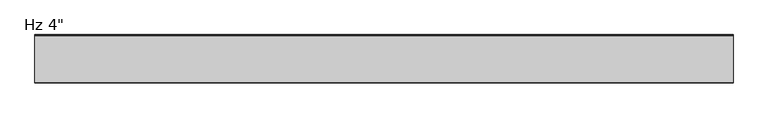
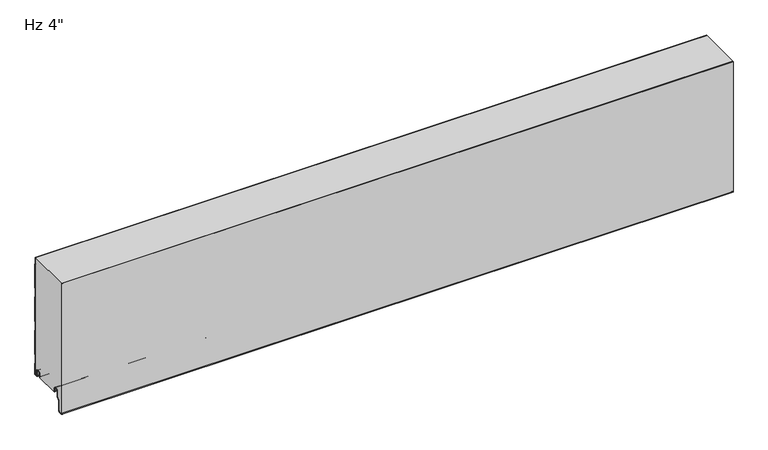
"""IFC4 building model written with IfcOpenShell, lengths in millimetres: plate geometry."""

from ifc_helpers import new_model, si_unit, point, frame, frame_2d, origin, place, context, project, spatial, polyline, circle_curve, trimmed, segment, composite_curve, outline, extrude, source, transform, mapped, element, save
from ifc_brep_helpers import plane_surface, cylinder_surface, revolved_surface, advanced_brep


def plate_7d6053d8(model_context):
    return source(origin(), model_context, "Body", "SolidModel", [
        advanced_brep(
        [(-730.0, -17.0015159, 2.0313088), (-730.0, -18.0015191, 1.0313116), (-730.0, -19.0015105, 2.0313088), (-730.0, -19.0015105, 6.0315125), (-730.0, -18.0015159, 6.0315125), (-730.0, -18.0015159, 8.7237223), (-730.0, -14.7015202, 12.023718), (-730.0, -10.301529, 12.023718), (-730.0, -7.0015335, 8.7237225), (-730.0, -7.0015335, -1.6962564), (-730.0, -5.2315393, -3.4662506), (-730.0, -0.9999916, -3.4662506), (-730.0, -0.9999916, 21.034026), (-730.0, -2.2002307, 22.4196686), (-730.0, -2.2002307, 41.7948349), (-730.0, -1.0, 43.1804679), (-730.0, -1.0, 97.2338833), (-730.0, -2.2002307, 98.6195162), (-730.0, -2.2002307, 117.9946825), (-730.0, -1.0, 119.3803155), (-730.0, -1.0, 173.4337309), (-730.0, -2.2002307, 174.8193638), (-730.0, -2.2002307, 194.1945301), (-730.0, -1.0, 195.5801631), (-730.0, -1.0, 249.6335785), (-730.0, -2.2002307, 251.0192114), (-730.0, -2.2002307, 266.4), (-730.0, -1.2002307, 266.4), (-730.0, -1.2002307, 251.3920919), (-730.0, -0.3417885, 250.4010442), (-730.0, 0.0, 249.4844273), (-730.0, 0.0, 195.7293142), (-730.0, -0.3417885, 194.8126973), (-730.0, -1.2002307, 193.8216497), (-730.0, -1.2002307, 175.1922443), (-730.0, -0.3417885, 174.2011966), (-730.0, 0.0, 173.2845797), (-730.0, 0.0, 119.5294666), (-730.0, -0.3417885, 118.6128497), (-730.0, -1.2002307, 117.6218021), (-730.0, -1.2002307, 98.9923967), (-730.0, -0.3417885, 98.001349), (-730.0, 0.0, 97.0847321), (-730.0, 0.0, 43.329619), (-730.0, -0.3417885, 42.4130021), (-730.0, -1.2002307, 41.4219545), (-730.0, -1.2002307, 22.7925491), (-730.0, -0.3417885, 21.8015014), (-730.0, 0.0, 20.8847931), (-730.0, 8.4e-06, -3.0662545), (-730.0, -1.3999878, -4.4662506), (-730.0, -5.2315393, -4.4662506), (-730.0, -8.0015335, -1.6962564), (-730.0, -8.0015335, 8.7237225), (-730.0, -10.301529, 11.023718), (-730.0, -14.7015202, 11.023718), (-730.0, -17.0015159, 8.7237223), (730.0, -17.0015159, 2.0313088), (730.0, -17.0015159, 8.7237223), (730.0, -14.7015202, 11.023718), (730.0, -10.301529, 11.023718), (730.0, -8.0015335, 8.7237225), (730.0, -8.0015335, -1.6962564), (730.0, -5.2315393, -4.4662506), (730.0, -1.3999878, -4.4662506), (730.0, 8.4e-06, -3.0662545), (730.0, 8.4e-06, 20.8848845), (730.0, -0.3417885, 21.8015014), (730.0, -1.2002307, 22.7925491), (730.0, -1.2002307, 41.4219545), (730.0, -0.3417885, 42.4130021), (730.0, 0.0, 43.329619), (730.0, 0.0, 97.0847321), (730.0, -0.3417885, 98.001349), (730.0, -1.2002307, 98.9923967), (730.0, -1.2002307, 117.6218021), (730.0, -0.3417885, 118.6128497), (730.0, 0.0, 119.5294666), (730.0, 0.0, 173.2845797), (730.0, -0.3417885, 174.2011966), (730.0, -1.2002307, 175.1922443), (730.0, -1.2002307, 193.8216497), (730.0, -0.3417885, 194.8126973), (730.0, 0.0, 195.7293142), (730.0, 0.0, 249.4844273), (730.0, -0.3417885, 250.4010442), (730.0, -1.2002307, 251.3920919), (730.0, -1.2002307, 266.4), (730.0, -2.2002307, 266.4), (730.0, -2.2002307, 251.0192114), (730.0, -1.0, 249.6335785), (730.0, -1.0, 195.5801631), (730.0, -2.2002307, 194.1945301), (730.0, -2.2002307, 174.8193638), (730.0, -1.0, 173.4337309), (730.0, -1.0, 119.3803155), (730.0, -2.2002307, 117.9946825), (730.0, -2.2002307, 98.6195162), (730.0, -1.0, 97.2338833), (730.0, -1.0, 43.1804679), (730.0, -2.2002307, 41.7948349), (730.0, -2.2002307, 22.4196686), (730.0, -0.9999916, 21.034026), (730.0, -0.9999916, -3.4662506), (730.0, -5.2315393, -3.4662506), (730.0, -7.0015335, -1.6962564), (730.0, -7.0015335, 8.7237225), (730.0, -10.301529, 12.023718), (730.0, -14.7015202, 12.023718), (730.0, -18.0015159, 8.7237223), (730.0, -18.0015159, 6.0315125), (730.0, -19.0015105, 6.0315125), (730.0, -19.0015105, 2.0313088), (730.0, -18.0015192, 1.0313116)],
        [
            (0, 1, circle_curve(frame((-730.0, -18.0015132, 2.0313088), z_axis=(-1.0, 0.0, 0.0), x_axis=(0.0, 0.0, 1.0)), 0.9999973)),
            (1, 2, circle_curve(frame((-730.0, -18.0015133, 2.0313088), z_axis=(-1.0, 0.0, 0.0), x_axis=(0.0, 0.0, 1.0)), 0.9999972)),
            (2, 3),
            (3, 4),
            (4, 5),
            (5, 6, circle_curve(frame((-730.0, -14.7015202, 8.7237223), z_axis=(-1.0, 0.0, 0.0), x_axis=(0.0, 0.0, 1.0)), 3.2999957)),
            (6, 7),
            (7, 8, circle_curve(frame((-730.0, -10.301529, 8.7237225), z_axis=(-1.0, 0.0, 0.0), x_axis=(0.0, 0.0, 1.0)), 3.2999955)),
            (8, 9),
            (9, 10, circle_curve(frame((-730.0, -5.2315393, -1.6962564), z_axis=(1.0, 0.0, 0.0), x_axis=(0.0, 0.0, 1.0)), 1.7699942)),
            (10, 11),
            (11, 12),
            (12, 13),
            (13, 14),
            (14, 15),
            (15, 16),
            (16, 17),
            (17, 18),
            (18, 19),
            (19, 20),
            (20, 21),
            (21, 22),
            (22, 23),
            (23, 24),
            (24, 25),
            (25, 26),
            (26, 27),
            (27, 28),
            (28, 29),
            (29, 30, circle_curve(frame((-730.0, -1.3999972, 249.4844273), z_axis=(-1.0, 0.0, 0.0), x_axis=(0.0, 0.0, 1.0)), 1.3999972)),
            (30, 31),
            (31, 32, circle_curve(frame((-730.0, -1.3999972, 195.7293142), z_axis=(-1.0, 0.0, 0.0), x_axis=(0.0, 0.0, 1.0)), 1.3999972)),
            (32, 33),
            (33, 34),
            (34, 35),
            (35, 36, circle_curve(frame((-730.0, -1.3999972, 173.2845797), z_axis=(-1.0, 0.0, 0.0), x_axis=(0.0, 0.0, 1.0)), 1.3999972)),
            (36, 37),
            (37, 38, circle_curve(frame((-730.0, -1.3999972, 119.5294666), z_axis=(-1.0, 0.0, 0.0), x_axis=(0.0, 0.0, 1.0)), 1.3999972)),
            (38, 39),
            (39, 40),
            (40, 41),
            (41, 42, circle_curve(frame((-730.0, -1.3999972, 97.0847321), z_axis=(-1.0, 0.0, 0.0), x_axis=(0.0, 0.0, 1.0)), 1.3999972)),
            (42, 43),
            (43, 44, circle_curve(frame((-730.0, -1.3999972, 43.329619), z_axis=(-1.0, 0.0, 0.0), x_axis=(0.0, 0.0, 1.0)), 1.3999972)),
            (44, 45),
            (45, 46),
            (46, 47),
            (47, 48, circle_curve(frame((-730.0, -1.3999972, 20.8848845), z_axis=(-1.0, 0.0, 0.0), x_axis=(0.0, 0.0, 1.0)), 1.3999972)),
            (48, 49),
            (49, 50, circle_curve(frame((-730.0, -1.3999878, -3.0662545), z_axis=(-1.0, 0.0, 0.0), x_axis=(0.0, 0.0, 1.0)), 1.3999962)),
            (50, 51),
            (51, 52, circle_curve(frame((-730.0, -5.2315393, -1.6962564), z_axis=(-1.0, 0.0, 0.0), x_axis=(0.0, 0.0, 1.0)), 2.7699942)),
            (52, 53),
            (53, 54, circle_curve(frame((-730.0, -10.301529, 8.7237225), z_axis=(1.0, 0.0, 0.0), x_axis=(0.0, 0.0, 1.0)), 2.2999955)),
            (54, 55),
            (55, 56, circle_curve(frame((-730.0, -14.7015202, 8.7237223), z_axis=(1.0, 0.0, 0.0), x_axis=(0.0, 0.0, 1.0)), 2.2999957)),
            (56, 0),
            (57, 58),
            (58, 59, circle_curve(frame((730.0, -14.7015202, 8.7237223), z_axis=(-1.0, 0.0, 0.0), x_axis=(0.0, 0.0, 1.0)), 2.2999957)),
            (59, 60),
            (60, 61, circle_curve(frame((730.0, -10.301529, 8.7237225), z_axis=(-1.0, 0.0, 0.0), x_axis=(0.0, 0.0, 1.0)), 2.2999955)),
            (61, 62),
            (62, 63, circle_curve(frame((730.0, -5.2315393, -1.6962564), z_axis=(1.0, 0.0, 0.0), x_axis=(0.0, 0.0, 1.0)), 2.7699942)),
            (63, 64),
            (64, 65, circle_curve(frame((730.0, -1.3999878, -3.0662545), z_axis=(1.0, 0.0, 0.0), x_axis=(0.0, 0.0, 1.0)), 1.3999962)),
            (65, 66),
            (66, 67, circle_curve(frame((730.0, -1.3999972, 20.8848845), z_axis=(1.0, 0.0, 0.0), x_axis=(0.0, 0.0, 1.0)), 1.3999972)),
            (67, 68),
            (68, 69),
            (69, 70),
            (70, 71, circle_curve(frame((730.0, -1.3999972, 43.329619), z_axis=(1.0, 0.0, 0.0), x_axis=(0.0, 0.0, 1.0)), 1.3999972)),
            (71, 72),
            (72, 73, circle_curve(frame((730.0, -1.3999972, 97.0847321), z_axis=(1.0, 0.0, 0.0), x_axis=(0.0, 0.0, 1.0)), 1.3999972)),
            (73, 74),
            (74, 75),
            (75, 76),
            (76, 77, circle_curve(frame((730.0, -1.3999972, 119.5294666), z_axis=(1.0, 0.0, 0.0), x_axis=(0.0, 0.0, 1.0)), 1.3999972)),
            (77, 78),
            (78, 79, circle_curve(frame((730.0, -1.3999972, 173.2845797), z_axis=(1.0, 0.0, 0.0), x_axis=(0.0, 0.0, 1.0)), 1.3999972)),
            (79, 80),
            (80, 81),
            (81, 82),
            (82, 83, circle_curve(frame((730.0, -1.3999972, 195.7293142), z_axis=(1.0, 0.0, 0.0), x_axis=(0.0, 0.0, 1.0)), 1.3999972)),
            (83, 84),
            (84, 85, circle_curve(frame((730.0, -1.3999972, 249.4844273), z_axis=(1.0, 0.0, 0.0), x_axis=(0.0, 0.0, 1.0)), 1.3999972)),
            (85, 86),
            (86, 87),
            (87, 88),
            (88, 89),
            (89, 90),
            (90, 91),
            (91, 92),
            (92, 93),
            (93, 94),
            (94, 95),
            (95, 96),
            (96, 97),
            (97, 98),
            (98, 99),
            (99, 100),
            (100, 101),
            (101, 102),
            (102, 103),
            (103, 104),
            (104, 105, circle_curve(frame((730.0, -5.2315393, -1.6962564), z_axis=(-1.0, 0.0, 0.0), x_axis=(0.0, 0.0, 1.0)), 1.7699942)),
            (105, 106),
            (106, 107, circle_curve(frame((730.0, -10.301529, 8.7237225), z_axis=(1.0, 0.0, 0.0), x_axis=(0.0, 0.0, 1.0)), 3.2999955)),
            (107, 108),
            (108, 109, circle_curve(frame((730.0, -14.7015202, 8.7237223), z_axis=(1.0, 0.0, 0.0), x_axis=(0.0, 0.0, 1.0)), 3.2999957)),
            (109, 110),
            (110, 111),
            (111, 112),
            (112, 113, circle_curve(frame((730.0, -18.0015133, 2.0313088), z_axis=(1.0, 0.0, 0.0), x_axis=(0.0, 0.0, 1.0)), 0.9999972)),
            (113, 57, circle_curve(frame((730.0, -18.0015132, 2.0313088), z_axis=(1.0, 0.0, 0.0), x_axis=(0.0, 0.0, 1.0)), 0.9999973)),
            (26, 88),
            (87, 27),
            (56, 58),
            (57, 0),
            (55, 59),
            (54, 60),
            (53, 61),
            (52, 62),
            (51, 63),
            (50, 64),
            (49, 65),
            (48, 66),
            (47, 67),
            (46, 68),
            (45, 69),
            (44, 70),
            (43, 71),
            (42, 72),
            (41, 73),
            (40, 74),
            (39, 75),
            (38, 76),
            (37, 77),
            (36, 78),
            (19, 95),
            (94, 20),
            (18, 96),
            (17, 97),
            (16, 98),
            (15, 99),
            (14, 100),
            (13, 101),
            (12, 102),
            (11, 103),
            (10, 104),
            (9, 105),
            (8, 106),
            (7, 107),
            (6, 108),
            (5, 109),
            (4, 110),
            (3, 111),
            (2, 112),
            (1, 113),
            (35, 79),
            (34, 80),
            (33, 81),
            (32, 82),
            (31, 83),
            (30, 84),
            (29, 85),
            (28, 86),
            (25, 89),
            (24, 90),
            (23, 91),
            (22, 92),
            (21, 93),
        ],
        [
            plane_surface(frame((-730.0, 0.0, 533.4), z_axis=(-1.0, 0.0, 0.0), x_axis=(0.0, 1.0, 0.0))),
            plane_surface(frame((730.0, 0.0, 533.4), z_axis=(1.0, 0.0, 0.0), x_axis=(0.0, 1.0, 0.0))),
            plane_surface(frame((730.0, 10.0, 266.4), z_axis=(0.0, 0.0, 1.0), x_axis=(-1.0, 0.0, 0.0))),
            plane_surface(frame((-730.0, -17.0015159, 2.0313088), z_axis=(0.0, 1.0, 0.0), x_axis=(1.0, 0.0, 0.0))),
            revolved_surface(polyline([(730.0, -14.7015202, 11.023718), (-730.0, -14.7015202, 11.023718)]), (-730.0, -14.7015202, 8.7237223), (1.0, 0.0, 0.0)),
            plane_surface(frame((-730.0, -14.7015202, 11.023718), z_axis=(0.0, 0.0, -1.0), x_axis=(1.0, 0.0, 0.0))),
            revolved_surface(polyline([(730.0, -10.301529, 11.023717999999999), (-730.0, -10.301529, 11.023717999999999)]), (-730.0, -10.301529, 8.7237225), (1.0, 0.0, 0.0)),
            plane_surface(frame((-730.0, -8.0015335, 8.7237225), z_axis=(0.0, -1.0, 0.0), x_axis=(1.0, 0.0, 0.0))),
            cylinder_surface(frame((-730.0, -5.2315393, -1.6962564), z_axis=(-1.0, 0.0, 0.0), x_axis=(0.0, 0.0, 1.0)), 2.7699942),
            plane_surface(frame((-730.0, -5.2315393, -4.4662506), z_axis=(0.0, 0.0, -1.0), x_axis=(1.0, 0.0, 0.0))),
            cylinder_surface(frame((-730.0, -1.3999878, -3.0662545), z_axis=(-1.0, 0.0, 0.0), x_axis=(0.0, 0.0, 1.0)), 1.3999962),
            plane_surface(frame((-730.0, 8.4e-06, -3.0662545), z_axis=(0.0, 1.0, 0.0), x_axis=(1.0, 0.0, 0.0))),
            cylinder_surface(frame((-730.0, -1.3999972, 20.8848845), z_axis=(-1.0, 0.0, 0.0), x_axis=(0.0, 0.0, 1.0)), 1.3999972),
            plane_surface(frame((-730.0, -0.3417885, 21.8015014), z_axis=(0.0, 0.755864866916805, 0.6547276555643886), x_axis=(1.0, 0.0, 0.0))),
            plane_surface(frame((-730.0, -1.2002307, 32.1072518), z_axis=(0.0, 1.0, 0.0), x_axis=(1.0, 0.0, 0.0))),
            plane_surface(frame((-730.0, -1.2002307, 41.4219545), z_axis=(0.0, 0.755864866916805, -0.6547276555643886), x_axis=(1.0, 0.0, 0.0))),
            cylinder_surface(frame((-730.0, -1.3999972, 43.329619), z_axis=(-1.0, 0.0, 0.0), x_axis=(0.0, 0.0, 1.0)), 1.3999972),
            plane_surface(frame((-730.0, 0.0, 43.329619), z_axis=(0.0, 1.0, 0.0), x_axis=(1.0, 0.0, 0.0))),
            cylinder_surface(frame((-730.0, -1.3999972, 97.0847321), z_axis=(-1.0, 0.0, 0.0), x_axis=(0.0, 0.0, 1.0)), 1.3999972),
            plane_surface(frame((-730.0, -0.3417885, 98.001349), z_axis=(0.0, 0.755864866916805, 0.6547276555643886), x_axis=(1.0, 0.0, 0.0))),
            plane_surface(frame((-730.0, -1.2002307, 108.3070994), z_axis=(0.0, 1.0, 0.0), x_axis=(1.0, 0.0, 0.0))),
            plane_surface(frame((-730.0, -1.2002307, 117.6218021), z_axis=(0.0, 0.755864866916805, -0.6547276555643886), x_axis=(1.0, 0.0, 0.0))),
            cylinder_surface(frame((-730.0, -1.3999972, 119.5294666), z_axis=(-1.0, 0.0, 0.0), x_axis=(0.0, 0.0, 1.0)), 1.3999972),
            plane_surface(frame((-730.0, 0.0, 119.5294666), z_axis=(0.0, 1.0, 0.0), x_axis=(1.0, 0.0, 0.0))),
            plane_surface(frame((-730.0, -1.0, 173.4337309), z_axis=(0.0, -1.0, 0.0), x_axis=(1.0, 0.0, 0.0))),
            plane_surface(frame((-730.0, -1.0, 119.3803155), z_axis=(0.0, -0.755864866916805, 0.6547276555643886), x_axis=(1.0, 0.0, 0.0))),
            plane_surface(frame((-730.0, -2.2002307, 117.9946825), z_axis=(0.0, -1.0, 0.0), x_axis=(1.0, 0.0, 0.0))),
            plane_surface(frame((-730.0, -2.2002307, 98.6195162), z_axis=(0.0, -0.755864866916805, -0.6547276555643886), x_axis=(1.0, 0.0, 0.0))),
            plane_surface(frame((-730.0, -1.0, 97.2338833), z_axis=(0.0, -1.0, 0.0), x_axis=(1.0, 0.0, 0.0))),
            plane_surface(frame((-730.0, -1.0, 43.1804679), z_axis=(0.0, -0.755864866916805, 0.6547276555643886), x_axis=(1.0, 0.0, 0.0))),
            plane_surface(frame((-730.0, -2.2002307, 41.7948349), z_axis=(0.0, -1.0, 0.0), x_axis=(1.0, 0.0, 0.0))),
            plane_surface(frame((-730.0, -2.2002307, 22.4196686), z_axis=(0.0, -0.755864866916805, -0.6547276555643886), x_axis=(1.0, 0.0, 0.0))),
            plane_surface(frame((-730.0, -0.9999916, 21.034026), z_axis=(0.0, -1.0, 0.0), x_axis=(1.0, 0.0, 0.0))),
            plane_surface(frame((-730.0, -0.9999916, -3.4662506), z_axis=(0.0, 0.0, 1.0), x_axis=(1.0, 0.0, 0.0))),
            revolved_surface(polyline([(730.0, -5.2315393, 0.07373779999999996), (-730.0, -5.2315393, 0.07373779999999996)]), (-730.0, -5.2315393, -1.6962564), (1.0, 0.0, 0.0)),
            plane_surface(frame((-730.0, -7.0015335, -1.6962564), z_axis=(0.0, 1.0, 0.0), x_axis=(1.0, 0.0, 0.0))),
            cylinder_surface(frame((-730.0, -10.301529, 8.7237225), z_axis=(-1.0, 0.0, 0.0), x_axis=(0.0, 0.0, 1.0)), 3.2999955),
            plane_surface(frame((-730.0, -10.301529, 12.023718), z_axis=(0.0, 0.0, 1.0), x_axis=(1.0, 0.0, 0.0))),
            cylinder_surface(frame((-730.0, -14.7015202, 8.7237223), z_axis=(-1.0, 0.0, 0.0), x_axis=(0.0, 0.0, 1.0)), 3.2999957),
            plane_surface(frame((-730.0, -18.0015159, 8.7237223), z_axis=(0.0, -1.0, 0.0), x_axis=(1.0, 0.0, 0.0))),
            plane_surface(frame((-730.0, -18.0015159, 6.0315125), z_axis=(0.0, 0.0, 1.0), x_axis=(1.0, 0.0, 0.0))),
            plane_surface(frame((-730.0, -19.0015105, 6.0315125), z_axis=(0.0, -1.0, 0.0), x_axis=(1.0, 0.0, 0.0))),
            cylinder_surface(frame((-730.0, -18.0015133, 2.0313088), z_axis=(-1.0, 0.0, 0.0), x_axis=(0.0, 0.0, 1.0)), 0.9999972),
            cylinder_surface(frame((-730.0, -18.0015132, 2.0313088), z_axis=(-1.0, 0.0, 0.0), x_axis=(0.0, 0.0, 1.0)), 0.9999973),
            cylinder_surface(frame((-730.0, -1.3999972, 173.2845797), z_axis=(-1.0, 0.0, 0.0), x_axis=(0.0, 0.0, 1.0)), 1.3999972),
            plane_surface(frame((-730.0, -0.3417885, 174.2011966), z_axis=(0.0, 0.755864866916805, 0.6547276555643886), x_axis=(1.0, 0.0, 0.0))),
            plane_surface(frame((-730.0, -1.2002307, 184.506947), z_axis=(0.0, 1.0, 0.0), x_axis=(1.0, 0.0, 0.0))),
            plane_surface(frame((-730.0, -1.2002307, 193.8216497), z_axis=(0.0, 0.755864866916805, -0.6547276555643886), x_axis=(1.0, 0.0, 0.0))),
            cylinder_surface(frame((-730.0, -1.3999972, 195.7293142), z_axis=(-1.0, 0.0, 0.0), x_axis=(0.0, 0.0, 1.0)), 1.3999972),
            plane_surface(frame((-730.0, 0.0, 195.7293142), z_axis=(0.0, 1.0, 0.0), x_axis=(1.0, 0.0, 0.0))),
            cylinder_surface(frame((-730.0, -1.3999972, 249.4844273), z_axis=(-1.0, 0.0, 0.0), x_axis=(0.0, 0.0, 1.0)), 1.3999972),
            plane_surface(frame((-730.0, -0.3417885, 250.4010442), z_axis=(0.0, 0.755864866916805, 0.6547276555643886), x_axis=(1.0, 0.0, 0.0))),
            plane_surface(frame((-730.0, -1.2002307, 260.7067946), z_axis=(0.0, 1.0, 0.0), x_axis=(1.0, 0.0, 0.0))),
            plane_surface(frame((-730.0, -2.2002307, 270.3943777), z_axis=(0.0, -1.0, 0.0), x_axis=(1.0, 0.0, 0.0))),
            plane_surface(frame((-730.0, -2.2002307, 251.0192114), z_axis=(0.0, -0.755864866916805, -0.6547276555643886), x_axis=(1.0, 0.0, 0.0))),
            plane_surface(frame((-730.0, -1.0, 249.6335785), z_axis=(0.0, -1.0, 0.0), x_axis=(1.0, 0.0, 0.0))),
            plane_surface(frame((-730.0, -1.0, 195.5801631), z_axis=(0.0, -0.755864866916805, 0.6547276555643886), x_axis=(1.0, 0.0, 0.0))),
            plane_surface(frame((-730.0, -2.2002307, 194.1945301), z_axis=(0.0, -1.0, 0.0), x_axis=(1.0, 0.0, 0.0))),
            plane_surface(frame((-730.0, -2.2002307, 174.8193638), z_axis=(0.0, -0.755864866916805, -0.6547276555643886), x_axis=(1.0, 0.0, 0.0))),
        ],
        [
            (0, [[1, 2, 3, 4, 5, 6, 7, 8, 9, 10, 11, 12, 13, 14, 15, 16, 17, 18, 19, 20, 21, 22, 23, 24, 25, 26, 27, 28, 29, 30, 31, 32, 33, 34, 35, 36, 37, 38, 39, 40, 41, 42, 43, 44, 45, 46, 47, 48, 49, 50, 51, 52, 53, 54, 55, 56, 57]]),
            (1, [[58, 59, 60, 61, 62, 63, 64, 65, 66, 67, 68, 69, 70, 71, 72, 73, 74, 75, 76, 77, 78, 79, 80, 81, 82, 83, 84, 85, 86, 87, 88, 89, 90, 91, 92, 93, 94, 95, 96, 97, 98, 99, 100, 101, 102, 103, 104, 105, 106, 107, 108, 109, 110, 111, 112, 113, 114]]),
            (2, [[115, -88, 116, -27]]),
            (3, [[117, -58, 118, -57]]),
            (4, [[119, -59, -117, -56]]),
            (5, [[120, -60, -119, -55]]),
            (6, [[121, -61, -120, -54]]),
            (7, [[122, -62, -121, -53]]),
            (8, [[123, -63, -122, -52]]),
            (9, [[124, -64, -123, -51]]),
            (10, [[125, -65, -124, -50]]),
            (11, [[126, -66, -125, -49]]),
            (12, [[127, -67, -126, -48]]),
            (13, [[128, -68, -127, -47]]),
            (14, [[129, -69, -128, -46]]),
            (15, [[130, -70, -129, -45]]),
            (16, [[131, -71, -130, -44]]),
            (17, [[132, -72, -131, -43]]),
            (18, [[133, -73, -132, -42]]),
            (19, [[134, -74, -133, -41]]),
            (20, [[135, -75, -134, -40]]),
            (21, [[136, -76, -135, -39]]),
            (22, [[137, -77, -136, -38]]),
            (23, [[138, -78, -137, -37]]),
            (24, [[139, -95, 140, -20]]),
            (25, [[141, -96, -139, -19]]),
            (26, [[142, -97, -141, -18]]),
            (27, [[143, -98, -142, -17]]),
            (28, [[144, -99, -143, -16]]),
            (29, [[145, -100, -144, -15]]),
            (30, [[146, -101, -145, -14]]),
            (31, [[147, -102, -146, -13]]),
            (32, [[148, -103, -147, -12]]),
            (33, [[149, -104, -148, -11]]),
            (34, [[150, -105, -149, -10]]),
            (35, [[151, -106, -150, -9]]),
            (36, [[152, -107, -151, -8]]),
            (37, [[153, -108, -152, -7]]),
            (38, [[154, -109, -153, -6]]),
            (39, [[155, -110, -154, -5]]),
            (40, [[156, -111, -155, -4]]),
            (41, [[157, -112, -156, -3]]),
            (42, [[158, -113, -157, -2]]),
            (43, [[-118, -114, -158, -1]]),
            (44, [[159, -79, -138, -36]]),
            (45, [[160, -80, -159, -35]]),
            (46, [[161, -81, -160, -34]]),
            (47, [[162, -82, -161, -33]]),
            (48, [[163, -83, -162, -32]]),
            (49, [[164, -84, -163, -31]]),
            (50, [[165, -85, -164, -30]]),
            (51, [[166, -86, -165, -29]]),
            (52, [[-28, -116, -87, -166]]),
            (53, [[-89, -115, -26, 167]]),
            (54, [[168, -90, -167, -25]]),
            (55, [[169, -91, -168, -24]]),
            (56, [[170, -92, -169, -23]]),
            (57, [[171, -93, -170, -22]]),
            (58, [[-140, -94, -171, -21]]),
        ],
    ),
        extrude(outline(composite_curve([segment(trimmed(circle_curve(frame_2d((-98.0304001, -32.4521176)), 3.5702393), [point((-97.7191297, -36.008762))], [point((-101.6, -32.5196853))], False, "CARTESIAN"), True, "CONTINUOUS"), segment(polyline([(-101.6, -32.5196853), (-101.6, 266.4), (-100.6, 266.4), (-100.6, -32.509446)]), True, "CONTINUOUS"), segment(trimmed(circle_curve(frame_2d((-98.0304001, -32.4521176)), 2.5702393), [point((-100.6, -32.509446))], [point((-97.8063145, -35.0125699))], True, "CARTESIAN"), True, "CONTINUOUS"), segment(polyline([(-97.8063145, -35.0125699), (-92.8244936, -34.5765709)]), True, "CONTINUOUS"), segment(trimmed(circle_curve(frame_2d((-93.3058842, -31.9198392)), 2.6999926), [point((-92.8244936, -34.5765709))], [point((-90.6058916, -31.9198392))], True, "CARTESIAN"), True, "CONTINUOUS"), segment(polyline([(-90.6058916, -31.9198392), (-90.6058916, -9.8247096), (-85.1038205, -4.3226385)]), True, "CONTINUOUS"), segment(trimmed(circle_curve(frame_2d((-86.3058982, -3.1205608)), 1.6999946), [point((-85.1038205, -4.3226385))], [point((-84.6059036, -3.1205608))], True, "CARTESIAN"), True, "CONTINUOUS"), segment(polyline([(-84.6059036, -3.1205608), (-84.6059036, 8.6903283)]), True, "CONTINUOUS"), segment(trimmed(circle_curve(frame_2d((-81.2559083, 8.6903283)), 3.3499953), [point((-84.6059036, 8.6903283))], [point((-81.2559083, 12.0403236))], False, "CARTESIAN"), True, "CONTINUOUS"), segment(polyline([(-81.2559083, 12.0403236), (-76.8559171, 12.0403236)]), True, "CONTINUOUS"), segment(trimmed(circle_curve(frame_2d((-76.8559171, 8.6903283)), 3.3499953), [point((-76.8559171, 12.0403236))], [point((-73.5059218, 8.6903283))], False, "CARTESIAN"), True, "CONTINUOUS"), segment(polyline([(-73.5059218, 8.6903283), (-73.5059218, 5.9912173), (-72.1074429, 5.9912173), (-72.1074429, 2.2328239)]), True, "CONTINUOUS"), segment(trimmed(circle_curve(frame_2d((-73.3074396, 2.2313092)), 1.1999976), [point((-72.1074429, 2.2328239))], [point((-73.2769177, 1.0316999))], False, "CARTESIAN"), True, "CONTINUOUS"), segment(trimmed(circle_curve(frame_2d((-73.3074396, 2.2313092)), 1.1999976), [point((-73.2769177, 1.0316999))], [point((-74.5059218, 2.1710221))], False, "CARTESIAN"), True, "CONTINUOUS"), segment(polyline([(-74.5059218, 2.1710221), (-74.5059218, 8.6903283)]), True, "CONTINUOUS"), segment(trimmed(circle_curve(frame_2d((-76.8559171, 8.6903283)), 2.3499953), [point((-74.5059218, 8.6903283))], [point((-76.8559171, 11.0403236))], True, "CARTESIAN"), True, "CONTINUOUS"), segment(polyline([(-76.8559171, 11.0403236), (-81.2559083, 11.0403236)]), True, "CONTINUOUS"), segment(trimmed(circle_curve(frame_2d((-81.2559083, 8.6903283)), 2.3499953), [point((-81.2559083, 11.0403236))], [point((-83.6059036, 8.6903283))], True, "CARTESIAN"), True, "CONTINUOUS"), segment(polyline([(-83.6059036, 8.6903283), (-83.6059036, -3.1205608)]), True, "CONTINUOUS"), segment(trimmed(circle_curve(frame_2d((-86.3058982, -3.1205608)), 2.6999946), [point((-83.6059036, -3.1205608))], [point((-84.3967137, -5.0297453))], False, "CARTESIAN"), True, "CONTINUOUS"), segment(polyline([(-84.3967137, -5.0297453), (-89.2251312, -9.8581627)]), True, "CONTINUOUS"), segment(trimmed(circle_curve(frame_2d((-88.3058942, -10.7773997)), 1.2999974), [point((-89.2251312, -9.8581627))], [point((-89.6058916, -10.7773997))], True, "CARTESIAN"), True, "CONTINUOUS"), segment(polyline([(-89.6058916, -10.7773997), (-89.6058916, -31.9198392)]), True, "CONTINUOUS"), segment(trimmed(circle_curve(frame_2d((-93.3058842, -31.9198392)), 3.6999926), [point((-89.6058916, -31.9198392))], [point((-92.6950831, -35.5690675))], False, "CARTESIAN"), True, "CONTINUOUS"), segment(polyline([(-92.6950831, -35.5690675), (-97.7191297, -36.008762)]), True, "CONTINUOUS")], self_intersect=False)), frame((-730.0, 0.0, 0.0), z_axis=(1.0, 0.0, 0.0), x_axis=(0.0, 1.0, 0.0)), (0.0, 0.0, 1.0), 1460.0),
        advanced_brep(
        [(-730.0, -73.270875, 1.0316999), (-730.0, -72.1014003, 2.2328239), (-730.0, -72.1014003, 5.9912173), (-730.0, -73.4998791, 5.9912173), (-730.0, -73.4998791, 8.6903283), (-730.0, -76.8498744, 12.0403236), (-730.0, -81.2498656, 12.0403236), (-730.0, -84.5998609, 8.6903283), (-730.0, -84.5998609, -3.1205608), (-730.0, -85.0977778, -4.3226385), (-730.0, -90.5998489, -9.8247096), (-730.0, -90.5998489, -31.9198392), (-730.0, -92.8184509, -34.5765709), (-730.0, -97.8002718, -35.0125699), (-730.0, -100.5945967, -32.4521176), (-730.0, -100.6, 266.4), (-730.0, -2.2002307, 266.4), (-730.0, -2.2002307, 251.0192115), (-730.0, -1.0, 249.6335785), (-730.0, -1.0, 195.5801631), (-730.0, -2.2002307, 194.1945302), (-730.0, -2.2002307, 174.8193639), (-730.0, -1.0, 173.4337309), (-730.0, -1.0, 119.3803155), (-730.0, -2.2002307, 117.9946826), (-730.0, -2.2002307, 98.6195163), (-730.0, -1.0, 97.2338833), (-730.0, -1.0, 43.1804679), (-730.0, -2.2002307, 41.794835), (-730.0, -2.2002307, 22.4196687), (-730.0, -0.9999916, 21.034026), (-730.0, -0.9999916, -3.4662506), (-730.0, -5.2315389, -3.4662506), (-730.0, -7.0015331, -1.6962564), (-730.0, -7.0015331, 8.7237222), (-730.0, -10.301529, 12.023718), (-730.0, -14.7015202, 12.023718), (-730.0, -18.0015159, 8.7237223), (-730.0, -18.0015159, 6.0315125), (-730.0, -19.0015105, 6.0315125), (-730.0, -19.0015105, 2.0313089), (-730.0, -18.0015192, 1.0313117), (-730.0, -19.0328308, 0.0), (-730.0, -72.2391751, 0.0), (730.0, -73.270875, 1.0316999), (730.0, -72.2391751, 0.0), (730.0, -19.0328308, 0.0), (730.0, -18.0015192, 1.0313117), (730.0, -19.0015105, 2.0313089), (730.0, -19.0015105, 6.0315125), (730.0, -18.0015159, 6.0315125), (730.0, -18.0015159, 8.7237223), (730.0, -14.7015202, 12.023718), (730.0, -10.301529, 12.023718), (730.0, -7.0015331, 8.7237222), (730.0, -7.0015331, -1.6962564), (730.0, -5.2315389, -3.4662506), (730.0, -0.9999916, -3.4662506), (730.0, -0.9999916, 21.034026), (730.0, -2.2002307, 22.4196687), (730.0, -2.2002307, 41.794835), (730.0, -1.0, 43.1804679), (730.0, -1.0, 97.2338833), (730.0, -2.2002307, 98.6195163), (730.0, -2.2002307, 117.9946826), (730.0, -1.0, 119.3803155), (730.0, -1.0, 173.4337309), (730.0, -2.2002307, 174.8193639), (730.0, -2.2002307, 194.1945302), (730.0, -1.0, 195.5801631), (730.0, -1.0, 249.6335785), (730.0, -2.2002307, 251.0192115), (730.0, -2.2002307, 266.4), (730.0, -100.6, 266.4), (730.0, -100.6, -32.4521176), (730.0, -97.8002718, -35.0125699), (730.0, -92.8184509, -34.5765709), (730.0, -90.5998489, -31.9198392), (730.0, -90.5998489, -9.8247096), (730.0, -85.0977778, -4.3226385), (730.0, -84.5998609, -3.1205608), (730.0, -84.5998609, 8.6903283), (730.0, -81.2498656, 12.0403236), (730.0, -76.8498744, 12.0403236), (730.0, -73.4998791, 8.6903283), (730.0, -73.4998791, 5.9912173), (730.0, -72.1014003, 5.9912173), (730.0, -72.1014003, 2.2328239)],
        [
            (0, 1, circle_curve(frame((-730.0, -73.3013969, 2.2313092), z_axis=(1.0, 0.0, 0.0), x_axis=(0.0, 0.0, -1.0)), 1.1999976)),
            (1, 2),
            (2, 3),
            (3, 4),
            (4, 5, circle_curve(frame((-730.0, -76.8498744, 8.6903283), z_axis=(1.0, 0.0, 0.0), x_axis=(0.0, 0.0, -1.0)), 3.3499953)),
            (5, 6),
            (6, 7, circle_curve(frame((-730.0, -81.2498656, 8.6903283), z_axis=(1.0, 0.0, 0.0), x_axis=(0.0, 0.0, -1.0)), 3.3499953)),
            (7, 8),
            (8, 9, circle_curve(frame((-730.0, -86.2998555, -3.1205608), z_axis=(-1.0, 0.0, 0.0), x_axis=(0.0, 0.0, -1.0)), 1.6999946)),
            (9, 10),
            (10, 11),
            (11, 12, circle_curve(frame((-730.0, -93.2998415, -31.9198392), z_axis=(-1.0, 0.0, 0.0), x_axis=(0.0, 0.0, -1.0)), 2.6999926)),
            (12, 13),
            (13, 14, circle_curve(frame((-730.0, -98.0243575, -32.4521176), z_axis=(-1.0, 0.0, 0.0), x_axis=(0.0, 0.0, -1.0)), 2.5702393)),
            (14, 15),
            (15, 16),
            (16, 17),
            (17, 18),
            (18, 19),
            (19, 20),
            (20, 21),
            (21, 22),
            (22, 23),
            (23, 24),
            (24, 25),
            (25, 26),
            (26, 27),
            (27, 28),
            (28, 29),
            (29, 30),
            (30, 31),
            (31, 32),
            (32, 33, circle_curve(frame((-730.0, -5.2315389, -1.6962564), z_axis=(-1.0, 0.0, 0.0), x_axis=(0.0, 0.0, -1.0)), 1.7699942)),
            (33, 34),
            (34, 35, circle_curve(frame((-730.0, -10.301529, 8.7237222), z_axis=(1.0, 0.0, 0.0), x_axis=(0.0, 0.0, -1.0)), 3.2999959)),
            (35, 36),
            (36, 37, circle_curve(frame((-730.0, -14.7015202, 8.7237223), z_axis=(1.0, 0.0, 0.0), x_axis=(0.0, 0.0, -1.0)), 3.2999957)),
            (37, 38),
            (38, 39),
            (39, 40),
            (40, 41, circle_curve(frame((-730.0, -18.0015133, 2.0313089), z_axis=(1.0, 0.0, 0.0), x_axis=(0.0, 0.0, -1.0)), 0.9999972)),
            (41, 42),
            (42, 43),
            (43, 0),
            (44, 45),
            (45, 46),
            (46, 47),
            (47, 48, circle_curve(frame((730.0, -18.0015133, 2.0313089), z_axis=(-1.0, 0.0, 0.0), x_axis=(0.0, 0.0, -1.0)), 0.9999972)),
            (48, 49),
            (49, 50),
            (50, 51),
            (51, 52, circle_curve(frame((730.0, -14.7015202, 8.7237223), z_axis=(-1.0, 0.0, 0.0), x_axis=(0.0, 0.0, -1.0)), 3.2999957)),
            (52, 53),
            (53, 54, circle_curve(frame((730.0, -10.301529, 8.7237222), z_axis=(-1.0, 0.0, 0.0), x_axis=(0.0, 0.0, -1.0)), 3.2999959)),
            (54, 55),
            (55, 56, circle_curve(frame((730.0, -5.2315389, -1.6962564), z_axis=(1.0, 0.0, 0.0), x_axis=(0.0, 0.0, -1.0)), 1.7699942)),
            (56, 57),
            (57, 58),
            (58, 59),
            (59, 60),
            (60, 61),
            (61, 62),
            (62, 63),
            (63, 64),
            (64, 65),
            (65, 66),
            (66, 67),
            (67, 68),
            (68, 69),
            (69, 70),
            (70, 71),
            (71, 72),
            (72, 73),
            (73, 74),
            (74, 75, circle_curve(frame((730.0, -98.0243575, -32.4521176), z_axis=(1.0, 0.0, 0.0), x_axis=(0.0, 0.0, -1.0)), 2.5702393)),
            (75, 76),
            (76, 77, circle_curve(frame((730.0, -93.2998415, -31.9198392), z_axis=(1.0, 0.0, 0.0), x_axis=(0.0, 0.0, -1.0)), 2.6999926)),
            (77, 78),
            (78, 79),
            (79, 80, circle_curve(frame((730.0, -86.2998555, -3.1205608), z_axis=(1.0, 0.0, 0.0), x_axis=(0.0, 0.0, -1.0)), 1.6999946)),
            (80, 81),
            (81, 82, circle_curve(frame((730.0, -81.2498656, 8.6903283), z_axis=(-1.0, 0.0, 0.0), x_axis=(0.0, 0.0, -1.0)), 3.3499953)),
            (82, 83),
            (83, 84, circle_curve(frame((730.0, -76.8498744, 8.6903283), z_axis=(-1.0, 0.0, 0.0), x_axis=(0.0, 0.0, -1.0)), 3.3499953)),
            (84, 85),
            (85, 86),
            (86, 87),
            (87, 44, circle_curve(frame((730.0, -73.3013969, 2.2313092), z_axis=(-1.0, 0.0, 0.0), x_axis=(0.0, 0.0, -1.0)), 1.1999976)),
            (15, 73),
            (72, 16),
            (43, 45),
            (44, 0),
            (42, 46),
            (14, 74),
            (13, 75),
            (12, 76),
            (11, 77),
            (10, 78),
            (9, 79),
            (8, 80),
            (7, 81),
            (6, 82),
            (5, 83),
            (4, 84),
            (3, 85),
            (2, 86),
            (1, 87),
            (41, 47),
            (40, 48),
            (39, 49),
            (38, 50),
            (37, 51),
            (36, 52),
            (35, 53),
            (34, 54),
            (33, 55),
            (32, 56),
            (31, 57),
            (30, 58),
            (29, 59),
            (28, 60),
            (27, 61),
            (26, 62),
            (25, 63),
            (24, 64),
            (23, 65),
            (22, 66),
            (21, 67),
            (20, 68),
            (19, 69),
            (18, 70),
            (17, 71),
        ],
        [
            plane_surface(frame((-730.0, -100.6, 533.4), z_axis=(-1.0, 0.0, 0.0), x_axis=(0.0, -1.0, 0.0))),
            plane_surface(frame((730.0, -100.6, 533.4), z_axis=(1.0, 0.0, 0.0), x_axis=(0.0, -1.0, 0.0))),
            plane_surface(frame((730.0, 10.0, 266.4), z_axis=(0.0, 0.0, 1.0), x_axis=(-1.0, 0.0, 0.0))),
            plane_surface(frame((-730.0, -73.270875, 1.0316999), z_axis=(0.0, -0.7071067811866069, -0.7071067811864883), x_axis=(1.0, 0.0, 0.0))),
            plane_surface(frame((-730.0, -72.2391751, 0.0), z_axis=(0.0, 0.0, -1.0), x_axis=(1.0, 0.0, 0.0))),
            plane_surface(frame((-730.0, -100.6, 1018.3156233), z_axis=(0.0, -1.0, 0.0), x_axis=(1.0, 0.0, 0.0))),
            cylinder_surface(frame((-730.0, -98.0243575, -32.4521176), z_axis=(-1.0, 0.0, 0.0), x_axis=(0.0, 0.0, -1.0)), 2.5702393),
            plane_surface(frame((-730.0, -97.8002718, -35.0125699), z_axis=(0.0, 0.08718474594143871, -0.9961921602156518), x_axis=(1.0, 0.0, 0.0))),
            cylinder_surface(frame((-730.0, -93.2998415, -31.9198392), z_axis=(-1.0, 0.0, 0.0), x_axis=(0.0, 0.0, -1.0)), 2.6999926),
            plane_surface(frame((-730.0, -90.5998489, -31.9198392), z_axis=(0.0, 1.0, 0.0), x_axis=(1.0, 0.0, 0.0))),
            plane_surface(frame((-730.0, -90.5998489, -9.8247096), z_axis=(0.0, 0.7071067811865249, -0.7071067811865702), x_axis=(1.0, 0.0, 0.0))),
            cylinder_surface(frame((-730.0, -86.2998555, -3.1205608), z_axis=(-1.0, 0.0, 0.0), x_axis=(0.0, 0.0, -1.0)), 1.6999946),
            plane_surface(frame((-730.0, -84.5998609, -3.1205608), z_axis=(0.0, 1.0, 0.0), x_axis=(1.0, 0.0, 0.0))),
            revolved_surface(polyline([(730.0, -81.2498656, 5.340332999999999), (-730.0, -81.2498656, 5.340332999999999)]), (-730.0, -81.2498656, 8.6903283), (1.0, 0.0, 0.0)),
            plane_surface(frame((-730.0, -81.2498656, 12.0403236), z_axis=(0.0, 0.0, -1.0), x_axis=(1.0, 0.0, 0.0))),
            revolved_surface(polyline([(730.0, -76.8498744, 5.340332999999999), (-730.0, -76.8498744, 5.340332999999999)]), (-730.0, -76.8498744, 8.6903283), (1.0, 0.0, 0.0)),
            plane_surface(frame((-730.0, -73.4998791, 8.6903283), z_axis=(0.0, -1.0, 0.0), x_axis=(1.0, 0.0, 0.0))),
            plane_surface(frame((-730.0, -73.4998791, 5.9912173), z_axis=(0.0, 0.0, -1.0), x_axis=(1.0, 0.0, 0.0))),
            plane_surface(frame((-730.0, -72.1014003, 5.9912173), z_axis=(0.0, -1.0, 0.0), x_axis=(1.0, 0.0, 0.0))),
            revolved_surface(polyline([(730.0, -73.3013969, 1.0313116), (-730.0, -73.3013969, 1.0313116)]), (-730.0, -73.3013969, 2.2313092), (1.0, 0.0, 0.0)),
            plane_surface(frame((-730.0, -19.0328308, 0.0), z_axis=(0.0, 0.7071067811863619, -0.7071067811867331), x_axis=(1.0, 0.0, 0.0))),
            revolved_surface(polyline([(730.0, -18.0015133, 1.0313116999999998), (-730.0, -18.0015133, 1.0313116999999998)]), (-730.0, -18.0015133, 2.0313089), (1.0, 0.0, 0.0)),
            plane_surface(frame((-730.0, -19.0015105, 2.0313089), z_axis=(0.0, 1.0, 0.0), x_axis=(1.0, 0.0, 0.0))),
            plane_surface(frame((-730.0, -19.0015105, 6.0315125), z_axis=(0.0, 0.0, -1.0), x_axis=(1.0, 0.0, 0.0))),
            plane_surface(frame((-730.0, -18.0015159, 6.0315125), z_axis=(0.0, 1.0, 0.0), x_axis=(1.0, 0.0, 0.0))),
            revolved_surface(polyline([(730.0, -14.7015202, 5.4237266), (-730.0, -14.7015202, 5.4237266)]), (-730.0, -14.7015202, 8.7237223), (1.0, 0.0, 0.0)),
            plane_surface(frame((-730.0, -14.7015202, 12.023718), z_axis=(0.0, 0.0, -1.0), x_axis=(1.0, 0.0, 0.0))),
            revolved_surface(polyline([(730.0, -10.301529, 5.423726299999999), (-730.0, -10.301529, 5.423726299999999)]), (-730.0, -10.301529, 8.7237222), (1.0, 0.0, 0.0)),
            plane_surface(frame((-730.0, -7.0015331, 8.7237222), z_axis=(0.0, -1.0, 0.0), x_axis=(1.0, 0.0, 0.0))),
            cylinder_surface(frame((-730.0, -5.2315389, -1.6962564), z_axis=(-1.0, 0.0, 0.0), x_axis=(0.0, 0.0, -1.0)), 1.7699942),
            plane_surface(frame((-730.0, -5.2315389, -3.4662506), z_axis=(0.0, 0.0, -1.0), x_axis=(1.0, 0.0, 0.0))),
            plane_surface(frame((-730.0, -0.9999916, -3.4662506), z_axis=(0.0, 1.0, 0.0), x_axis=(1.0, 0.0, 0.0))),
            plane_surface(frame((-730.0, -0.9999916, 21.034026), z_axis=(0.0, 0.7558648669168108, 0.6547276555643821), x_axis=(1.0, 0.0, 0.0))),
            plane_surface(frame((-730.0, -2.2002307, 22.4196687), z_axis=(0.0, 1.0, 0.0), x_axis=(1.0, 0.0, 0.0))),
            plane_surface(frame((-730.0, -2.2002307, 41.794835), z_axis=(0.0, 0.7558648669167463, -0.6547276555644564), x_axis=(1.0, 0.0, 0.0))),
            plane_surface(frame((-730.0, -1.0, 43.1804679), z_axis=(0.0, 1.0, 0.0), x_axis=(1.0, 0.0, 0.0))),
            plane_surface(frame((-730.0, -1.0, 97.2338833), z_axis=(0.0, 0.7558648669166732, 0.6547276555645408), x_axis=(1.0, 0.0, 0.0))),
            plane_surface(frame((-730.0, -2.2002307, 98.6195163), z_axis=(0.0, 1.0, 0.0), x_axis=(1.0, 0.0, 0.0))),
            plane_surface(frame((-730.0, -2.2002307, 117.9946826), z_axis=(0.0, 0.7558648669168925, -0.6547276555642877), x_axis=(1.0, 0.0, 0.0))),
            plane_surface(frame((-730.0, -1.0, 119.3803155), z_axis=(0.0, 1.0, 0.0), x_axis=(1.0, 0.0, 0.0))),
            plane_surface(frame((-730.0, -1.0, 173.4337309), z_axis=(0.0, 0.7558648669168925, 0.6547276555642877), x_axis=(1.0, 0.0, 0.0))),
            plane_surface(frame((-730.0, -2.2002307, 174.8193639), z_axis=(0.0, 1.0, 0.0), x_axis=(1.0, 0.0, 0.0))),
            plane_surface(frame((-730.0, -2.2002307, 194.1945302), z_axis=(0.0, 0.7558648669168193, -0.6547276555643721), x_axis=(1.0, 0.0, 0.0))),
            plane_surface(frame((-730.0, -1.0, 195.5801631), z_axis=(0.0, 1.0, 0.0), x_axis=(1.0, 0.0, 0.0))),
            plane_surface(frame((-730.0, -1.0, 249.6335785), z_axis=(0.0, 0.7558648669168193, 0.6547276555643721), x_axis=(1.0, 0.0, 0.0))),
            plane_surface(frame((-730.0, -2.2002307, 251.0192115), z_axis=(0.0, 1.0, 0.0), x_axis=(1.0, 0.0, 0.0))),
        ],
        [
            (0, [[1, 2, 3, 4, 5, 6, 7, 8, 9, 10, 11, 12, 13, 14, 15, 16, 17, 18, 19, 20, 21, 22, 23, 24, 25, 26, 27, 28, 29, 30, 31, 32, 33, 34, 35, 36, 37, 38, 39, 40, 41, 42, 43, 44]]),
            (1, [[45, 46, 47, 48, 49, 50, 51, 52, 53, 54, 55, 56, 57, 58, 59, 60, 61, 62, 63, 64, 65, 66, 67, 68, 69, 70, 71, 72, 73, 74, 75, 76, 77, 78, 79, 80, 81, 82, 83, 84, 85, 86, 87, 88]]),
            (2, [[89, -73, 90, -16]]),
            (3, [[91, -45, 92, -44]]),
            (4, [[-43, 93, -46, -91]]),
            (5, [[-74, -89, -15, 94]]),
            (6, [[95, -75, -94, -14]]),
            (7, [[96, -76, -95, -13]]),
            (8, [[97, -77, -96, -12]]),
            (9, [[98, -78, -97, -11]]),
            (10, [[99, -79, -98, -10]]),
            (11, [[100, -80, -99, -9]]),
            (12, [[101, -81, -100, -8]]),
            (13, [[102, -82, -101, -7]]),
            (14, [[103, -83, -102, -6]]),
            (15, [[104, -84, -103, -5]]),
            (16, [[105, -85, -104, -4]]),
            (17, [[106, -86, -105, -3]]),
            (18, [[107, -87, -106, -2]]),
            (19, [[-92, -88, -107, -1]]),
            (20, [[108, -47, -93, -42]]),
            (21, [[109, -48, -108, -41]]),
            (22, [[110, -49, -109, -40]]),
            (23, [[111, -50, -110, -39]]),
            (24, [[112, -51, -111, -38]]),
            (25, [[113, -52, -112, -37]]),
            (26, [[114, -53, -113, -36]]),
            (27, [[115, -54, -114, -35]]),
            (28, [[116, -55, -115, -34]]),
            (29, [[117, -56, -116, -33]]),
            (30, [[118, -57, -117, -32]]),
            (31, [[119, -58, -118, -31]]),
            (32, [[120, -59, -119, -30]]),
            (33, [[121, -60, -120, -29]]),
            (34, [[122, -61, -121, -28]]),
            (35, [[123, -62, -122, -27]]),
            (36, [[124, -63, -123, -26]]),
            (37, [[125, -64, -124, -25]]),
            (38, [[126, -65, -125, -24]]),
            (39, [[127, -66, -126, -23]]),
            (40, [[128, -67, -127, -22]]),
            (41, [[129, -68, -128, -21]]),
            (42, [[130, -69, -129, -20]]),
            (43, [[131, -70, -130, -19]]),
            (44, [[132, -71, -131, -18]]),
            (45, [[-17, -90, -72, -132]]),
        ],
    ),
    ])


if __name__ == "__main__":
    model = new_model("IFC4")
    model_context = context("Model", 3, world=origin())
    ifc_project = project(units=[si_unit("LENGTHUNIT", "METRE", prefix="MILLI")], contexts=[model_context])
    site = spatial("IfcSite", under=ifc_project)
    building = spatial("IfcBuilding", under=site)
    placement = place(None, origin())
    plate_shape = plate_7d6053d8(model_context)
    element("IfcPlate", 1, ObjectType="KIP-42-Karrier-KP-R19-CP-Hz-FL3-8in_SL : Hz 4\"", at=placement, inside=building, context=model_context, shape_type="MappedRepresentation", body=[
        mapped(plate_shape, transform((0.0, 0.0, 0.0), x_axis=(1.0, 0.0, 0.0), y_axis=(0.0, 1.0, 0.0), z_axis=(0.0, 0.0, 1.0))),
    ])
    save(model, "model.ifc")
